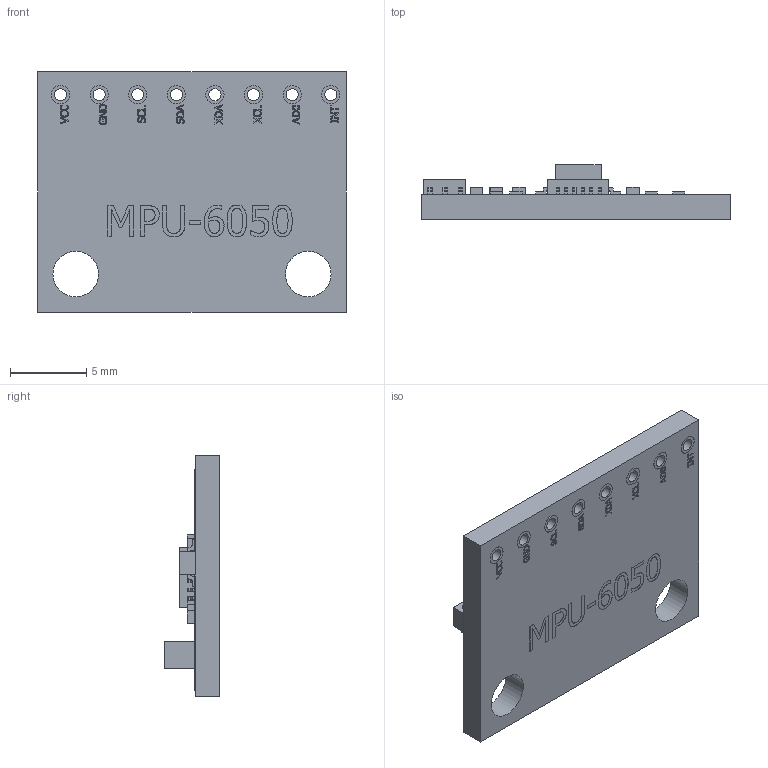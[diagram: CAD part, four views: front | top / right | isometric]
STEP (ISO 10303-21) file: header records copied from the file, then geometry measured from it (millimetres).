
FILE_DESCRIPTION(/* description */ (''),/* implementation_level */ '2;1');
FILE_NAME(/* name */ 'MPU6050.stp',/* time_stamp */ '2025-12-24T18:11:32+07:00',/* author */ ('quang'),/* organization */ (''),/* preprocessor_version */ 'ST-DEVELOPER v20',/* originating_system */ 'Autodesk Inventor 2024',/* authorisation */ '');
FILE_SCHEMA (('AUTOMOTIVE_DESIGN { 1 0 10303 214 3 1 1 }'));
Products named in the file (1): MPU6050
Bounding box: 20.3 x 3.62 x 15.8 mm (x, y, z)
Volume: 522.3 mm3; surface area: 868.4 mm2
Topology: 1 solids, 1 shells, 2450 faces, 6919 edges, 4609 vertices
Faces by surface type: plane 1626, bspline 665, cylinder 159
Full cylindrical faces by diameter (mm): 0.1 x8, 0.5 x1, 0.8 x8, 1.2 x16, 3 x2
Entity records: 85035 total; most frequent: CARTESIAN_POINT 23127, ORIENTED_EDGE 13838, DIRECTION 9471, EDGE_CURVE 6919, LINE 5235, VECTOR 5235, VERTEX_POINT 4609, EDGE_LOOP 2666
